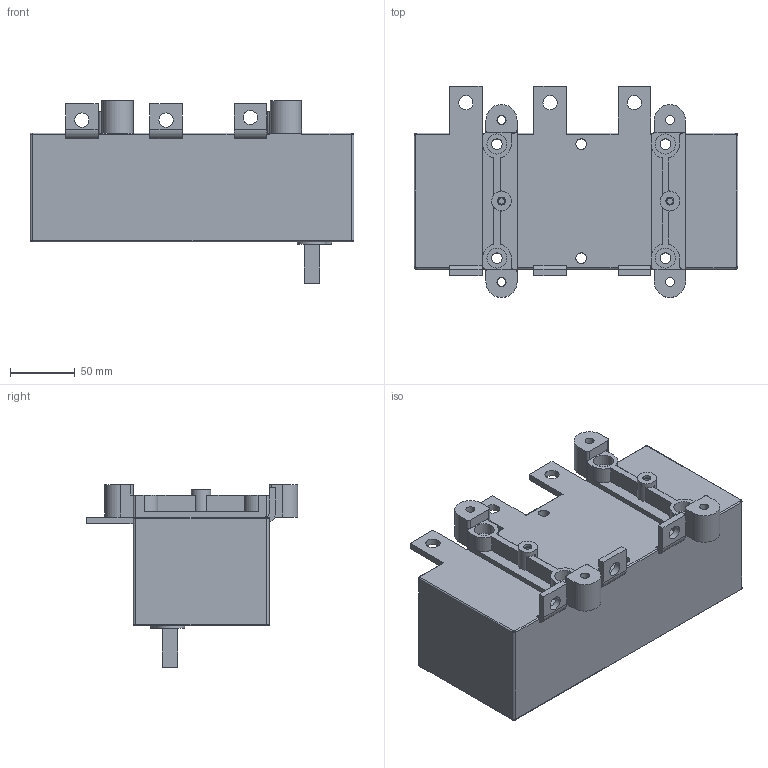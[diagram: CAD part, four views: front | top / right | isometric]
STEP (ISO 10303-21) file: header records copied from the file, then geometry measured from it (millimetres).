
FILE_DESCRIPTION(/* description */ (''),/* implementation_level */ '2;1');
FILE_NAME(/* name */ 'RA630 P3 A.stp',/* time_stamp */ '2021-08-19T08:13:24+02:00',/* author */ (''),/* organization */ (''),/* preprocessor_version */ 'ST-DEVELOPER v18.1',/* originating_system */ 'SIEMENS PLM Software NX 1965',/* authorisation */ '');
FILE_SCHEMA (('AUTOMOTIVE_DESIGN { 1 0 10303 214 3 1 1 1 }'));
Length unit declared in the file: millimetre
Products named in the file (1): RA630 P3 A_stp
Bounding box: 250 x 163 x 141 mm (x, y, z)
Volume: 2283568.7 mm3; surface area: 161607.3 mm2
Topology: 1 solids, 1 shells, 199 faces, 531 edges, 348 vertices
Faces by surface type: plane 99, cylinder 92, torus 5, bspline 3
Full cylindrical faces by diameter (mm): 4.8 x2, 6.2 x2, 7 x4, 8.2 x6, 11 x6, 14 x4, 15 x2, 15.5 x4
Entity records: 6192 total; most frequent: CARTESIAN_POINT 1108, DIRECTION 1087, ORIENTED_EDGE 994, EDGE_CURVE 497, AXIS2_PLACEMENT_3D 395, VERTEX_POINT 344, LINE 297, VECTOR 297
